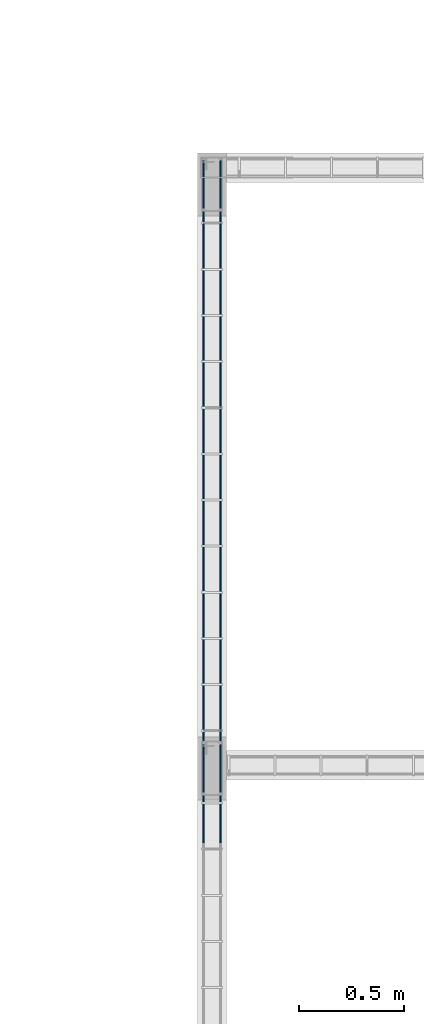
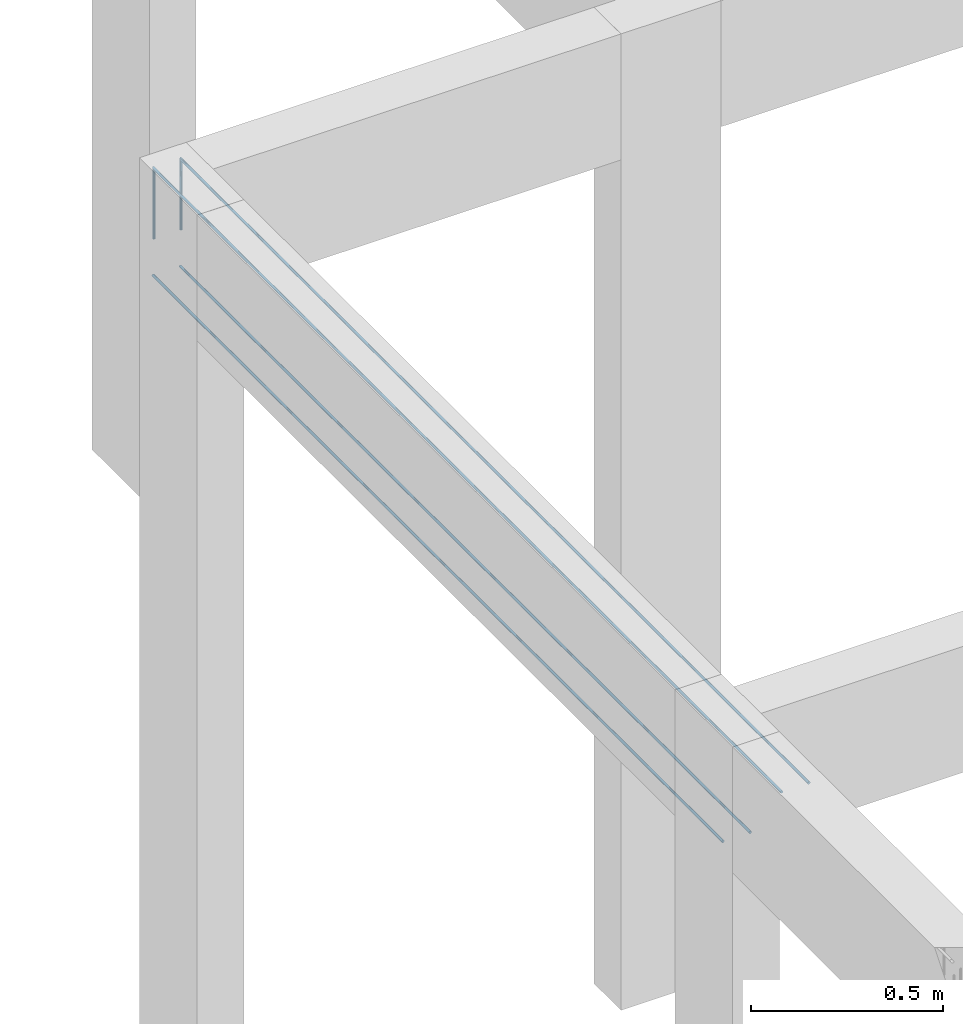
# One storey, part 95 of 236: 4 reinforcing bars.
"""IFC4 building model written with IfcOpenShell, lengths in centimetres."""

import ifcopenshell
import ifcopenshell.guid

model = None  # the IFC model being written
_history = None  # IfcOwnerHistory: only IFC2X3 demands one
_inside = {}  # id of a spatial element -> (the spatial element, [elements in it])
_under = {}  # id of a project, library or spatial element -> (it, [spatial elements below it])
_declared = {}  # id of a project -> (the project, [libraries it declares])
_typed = {}  # id of a type object -> (the type object, [elements of that type])
_made_of = {}  # id of a material, layer set ... -> (it, [elements and type objects made of it])


def new_model(schema):
    """Start an empty IFC model of exactly this schema.

    Asked for "IFC4X3", IfcOpenShell would pick the latest addendum, in which some entities
    have other attributes; the version numbers below select the first issue.
    IFC2X3 requires an IfcOwnerHistory on every rooted entity: one is made here for all.
    """
    global model, _history
    if schema == "IFC4X3":
        model = ifcopenshell.file(schema_version=(4, 3, 0, 0))
    else:
        model = ifcopenshell.file(schema=schema)
    _inside.clear()
    _under.clear()
    _declared.clear()
    _typed.clear()
    _made_of.clear()
    _history = None
    if model.schema == "IFC2X3":
        org = make("IfcOrganization", Name="unknown")
        user = make(
            "IfcPersonAndOrganization",
            ThePerson=make("IfcPerson", FamilyName="unknown"),
            TheOrganization=org,
        )
        app = make(
            "IfcApplication",
            ApplicationDeveloper=org,
            Version="unknown",
            ApplicationFullName="unknown",
            ApplicationIdentifier="unknown",
        )
        _history = make(
            "IfcOwnerHistory",
            OwningUser=user,
            OwningApplication=app,
            ChangeAction="ADDED",
            CreationDate=0,
        )
    return model


def make(cls, **values):
    """One entity of the class cls with the attributes given. An attribute that is None is left unset."""
    return model.create_entity(
        cls, **{name: value for name, value in values.items() if value is not None}
    )


def entity(cls, *values):
    """Any entity or typed value of the class cls, its attributes in the order of the schema. None: left unset."""
    e = model.create_entity(cls)
    for i, value in enumerate(values):
        if value is not None:
            e[i] = value
    return e


def rooted(cls, **values):
    """An entity with a GlobalId (a new one), such as an element, a storey or a relation."""
    return make(cls, GlobalId=ifcopenshell.guid.new(), OwnerHistory=_history, **values)


def si_unit(unit_type, name, prefix=None):
    """IfcSIUnit, for example si_unit("LENGTHUNIT", "METRE", prefix="MILLI")."""
    return make("IfcSIUnit", UnitType=unit_type, Prefix=prefix, Name=name)


def derived_unit(unit_type, elements):
    """IfcDerivedUnit: a product of units, each with its exponent."""
    return make(
        "IfcDerivedUnit",
        Elements=[
            make("IfcDerivedUnitElement", Unit=unit, Exponent=power)
            for unit, power in elements
        ],
        UnitType=unit_type,
    )


def assignment(units):
    """IfcUnitAssignment: the units of a project."""
    return None if units is None else make("IfcUnitAssignment", Units=units)


def point(xyz):
    """IfcCartesianPoint."""
    return None if xyz is None else make("IfcCartesianPoint", Coordinates=xyz)


def direction(xyz):
    """IfcDirection."""
    return None if xyz is None else make("IfcDirection", DirectionRatios=xyz)


def frame(location, z_axis=None, x_axis=None):
    """IfcAxis2Placement3D, a coordinate frame: its origin and axes. An axis left out is left unset."""
    return make(
        "IfcAxis2Placement3D",
        Location=point(location),
        Axis=direction(z_axis),
        RefDirection=direction(x_axis),
    )


def origin_with_axes():
    """The frame at (0, 0, 0) with the z axis (0, 0, 1) and the x axis (1, 0, 0) written out."""
    return frame((0.0, 0.0, 0.0), z_axis=(0.0, 0.0, 1.0), x_axis=(1.0, 0.0, 0.0))


def place(relative_to, where):
    """IfcLocalPlacement: puts the frame where relative to a parent placement (None: the world)."""
    return make(
        "IfcLocalPlacement", PlacementRelTo=relative_to, RelativePlacement=where
    )


def context(
    kind, dimensions, precision=None, world=None, true_north=None, identifier=None
):
    """IfcGeometricRepresentationContext, for example the 3D "Model" context."""
    return make(
        "IfcGeometricRepresentationContext",
        ContextIdentifier=identifier,
        ContextType=kind,
        CoordinateSpaceDimension=dimensions,
        Precision=precision,
        WorldCoordinateSystem=world,
        TrueNorth=true_north,
    )


def project(units=None, contexts=None):
    """IfcProject with its units and contexts."""
    return rooted(
        "IfcProject",
        Name="project",
        RepresentationContexts=contexts,
        UnitsInContext=assignment(units),
    )


def spatial(cls, under=None, at=None, **own):
    """A site, building, storey or space (cls), placed at a placement, below another one or the project."""
    s = rooted(cls, ObjectPlacement=at, **own)
    if under is not None:
        _under.setdefault(under.id(), (under, []))[1].append(s)
    return s


def shape(context_of_items, identifier, shape_type, items):
    """IfcShapeRepresentation: the items that make up one representation, for example the "Body"."""
    return make(
        "IfcShapeRepresentation",
        ContextOfItems=context_of_items,
        RepresentationIdentifier=identifier,
        RepresentationType=shape_type,
        Items=items,
    )


def made_of(thing, what):
    """Note that an element or type object is made of a material, layer set ...; save() writes the relation."""
    if what is not None:
        _made_of.setdefault(what.id(), (what, []))[1].append(thing)
    return thing


def element(
    cls,
    number,
    at=None,
    inside=None,
    cuts=None,
    type_object=None,
    material=None,
    context=None,
    identifier="Body",
    shape_type=None,
    held_by="IfcProductDefinitionShape",
    body=None,
    shapes=None,
    **own,
):
    """One element of the class cls, such as IfcWall. Its Tag is "e" and its number.

    at: its placement. inside: the storey or other place that contains it. cuts: it is an
    opening in that element (IfcRelVoidsElement). A single representation is given by context,
    identifier, shape_type and body (its items); several are given by shapes. held_by: the class
    of the entity that holds the representations. save() writes the other relations.
    """
    e = rooted(cls, Tag="e%d" % number, ObjectPlacement=at, **own)
    if body is not None:
        shapes = [shape(context, identifier, shape_type, body)]
    if shapes is not None:
        e.Representation = make(held_by, Representations=shapes)
    if inside is not None:
        _inside.setdefault(inside.id(), (inside, []))[1].append(e)
    if cuts is not None:
        rooted(
            "IfcRelVoidsElement", RelatingBuildingElement=cuts, RelatedOpeningElement=e
        )
    if type_object is not None:
        _typed.setdefault(type_object.id(), (type_object, []))[1].append(e)
    return made_of(e, material)


def aggregate(whole, parts):
    """IfcRelAggregates: a whole, such as a stair, and the parts it consists of."""
    return rooted("IfcRelAggregates", RelatingObject=whole, RelatedObjects=parts)


def save(model, path):
    """Write the relations noted so far, then the file.

    IfcRelAggregates (storeys below a building ...), IfcRelContainedInSpatialStructure (elements
    in a storey), IfcRelDefinesByType, IfcRelAssociatesMaterial and IfcRelDeclares: one each for
    every whole, place, type object, material and project.
    """
    for whole, parts in _under.values():
        aggregate(whole, parts)
    for where, things in _inside.values():
        rooted(
            "IfcRelContainedInSpatialStructure",
            RelatedElements=things,
            RelatingStructure=where,
        )
    for kind, things in _typed.values():
        rooted("IfcRelDefinesByType", RelatedObjects=things, RelatingType=kind)
    for what, things in _made_of.values():
        rooted("IfcRelAssociatesMaterial", RelatedObjects=things, RelatingMaterial=what)
    for by, libraries in _declared.values():
        rooted("IfcRelDeclares", RelatingContext=by, RelatedDefinitions=libraries)
    model.write(path)


model = new_model("IFC4")

# Units and contexts
model_context = context("Model", 3, precision=1e-05, world=origin_with_axes(), identifier="Body")
ifc_project = project(units=[si_unit("LENGTHUNIT", "METRE", prefix="CENTI"), si_unit("VOLUMEUNIT", "CUBIC_METRE"), si_unit("AREAUNIT", "SQUARE_METRE"), si_unit("POWERUNIT", "WATT"), si_unit("LUMINOUSFLUXUNIT", "LUMEN"), si_unit("ELECTRICCURRENTUNIT", "AMPERE"), si_unit("PRESSUREUNIT", "PASCAL", prefix="KILO"), si_unit("MASSUNIT", "GRAM", prefix="KILO"), si_unit("PLANEANGLEUNIT", "RADIAN"), derived_unit("VOLUMETRICFLOWRATEUNIT", [(si_unit("LENGTHUNIT", "METRE"), 3), (si_unit("TIMEUNIT", "SECOND"), -1)])], contexts=[model_context])

# Site, building, storey
site_placement = place(None, frame((-4000.0, 0.0, 0.0), z_axis=(0.0, 0.0, 1.0), x_axis=(1.0, 0.0, 0.0)))
site = spatial("IfcSite", under=ifc_project, at=site_placement, Name="PADRÃO")
building_placement = place(site_placement, frame((0.0, 0.0, -14.0)))
building = spatial("IfcBuilding", under=site, at=building_placement, Name="CRECHE PRÉ-ESCOLA TIPO 2")
placement_1 = place(building_placement, origin_with_axes())
placement_2 = place(placement_1, frame((0.0, 0.0, 30.0), z_axis=(0.0, 0.0, 1.0), x_axis=(1.0, 0.0, 0.0)))
storey_placement = place(placement_2, frame((0.0, 0.0, 310.0), z_axis=(0.0, 0.0, 1.0), x_axis=(1.0, 0.0, 0.0)))
storey = spatial("IfcBuildingStorey", under=building, at=storey_placement, Name="TERREO", CompositionType="ELEMENT", Elevation=326.0)

# Reinforcing bars
for number, where, z_axis, x_axis, name in (
    (1, (2527.6, 3054.27, -36.7), (0.0, 0.0, 1.0), (1.0, 0.0, 0.0), "V297 - Longitudinal inferior"),
    (2, (2519.4, 3054.27, -36.7), (0.0, 0.0, 1.0), (1.0, 0.0, 0.0), "V297 - Longitudinal inferior"),
):
    element("IfcReinforcingBar", number, at=place(storey_placement, frame(where, z_axis=z_axis, x_axis=x_axis)), inside=storey, Name=name, BarLength=0.0, CrossSectionArea=5.0265482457e-05, NominalDiameter=0.8, PredefinedType="MAIN", context=model_context, shape_type="AdvancedSweptSolid", body=[
        entity("IfcSweptDiskSolid", entity("IfcCompositeCurve", [entity("IfcCompositeCurveSegment", "CONTINUOUS", True, entity("IfcPolyline", [entity("IfcCartesianPoint", [0.0, -148.25, -0.4]), entity("IfcCartesianPoint", [0.0, 148.25, -0.4])]))], False), 0.4),
    ])
for number, where, z_axis, x_axis, name in (
    (3, (2527.6, 3039.03301880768, -2.49624973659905), (0.0, 0.0, 1.0), (1.0, 0.0, 0.0), "V297 - Longitudinal superior"),
    (4, (2519.4, 3039.03301880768, -2.49624973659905), (0.0, 0.0, 1.0), (1.0, 0.0, 0.0), "V297 - Longitudinal superior"),
):
    element("IfcReinforcingBar", number, at=place(storey_placement, frame(where, z_axis=z_axis, x_axis=x_axis)), inside=storey, Name=name, BarLength=0.0, CrossSectionArea=5.0265482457e-05, NominalDiameter=0.8, PredefinedType="MAIN", context=model_context, shape_type="AdvancedSweptSolid", body=[
        entity("IfcSweptDiskSolid", entity("IfcCompositeCurve", [entity("IfcCompositeCurveSegment", "CONTINUOUS", True, entity("IfcPolyline", [entity("IfcCartesianPoint", [0.0, -163.490731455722, -0.403750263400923]), entity("IfcCartesianPoint", [0.0, 163.086981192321, -0.403750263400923])])), entity("IfcCompositeCurveSegment", "CONTINUOUS", True, entity("IfcPolyline", [entity("IfcCartesianPoint", [0.0, 163.086981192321, -0.403750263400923]), entity("IfcCartesianPoint", [0.0, 163.086981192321, -22.7014629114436])]))], False), 0.4),
    ])

save(model, "model.ifc")
